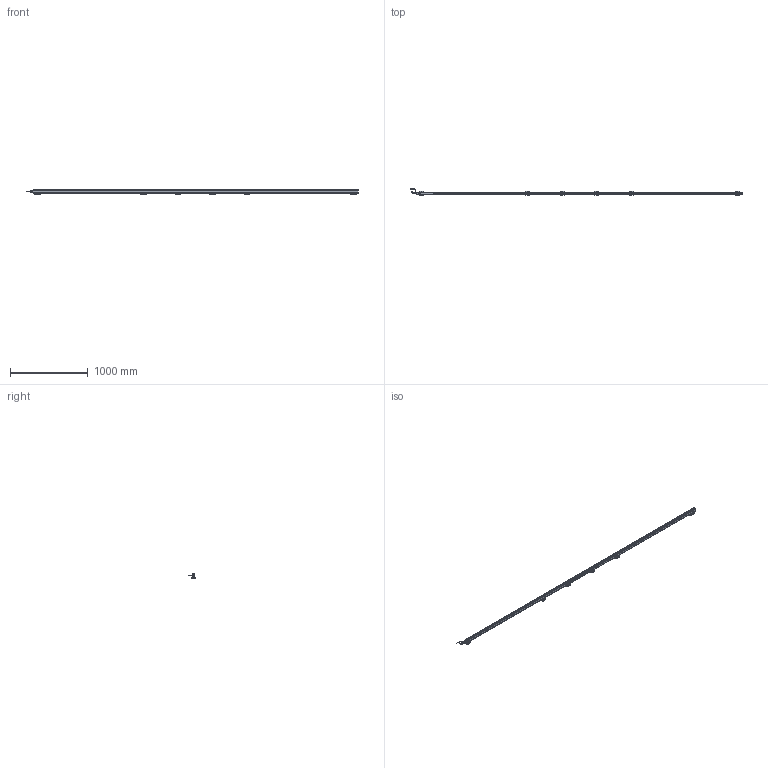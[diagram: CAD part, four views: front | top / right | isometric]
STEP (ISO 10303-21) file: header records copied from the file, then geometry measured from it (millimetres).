
FILE_DESCRIPTION(('Bauteilbeschreibung','HiCAD-Model','HiCAD-STEP-TRANSLATION','Bauteilbeschreibung'),'2;1');
FILE_NAME('PERFORMAXIQEASY_4110-4200_3D.STP','2014-03-05T13:34:36+00:00',('Konstrukteur'),('Konstrukteur Firma GmbH'),' HiCAD 2011, Step 1600.0 ','HiCAD 2011','confidential');
FILE_SCHEMA(('AUTOMOTIVE_DESIGN { 1 2 10303 214 0 1 1 1 }'));
Products named in the file (56): PERFORMAXIQEASY_4110_4200_3D; A_PERFORMAX IQ EASY 4110_4200; A_PERFORMAX IQ EASY SPEED; A_CAP DE; A_CAP CE_5; LED_2C_3MM; LED02C03MM; A519020315_CONNECTOR APPLIANCE; A_INSERT; A_CONTACTS; A_HOUSING; A_PROFILE; A_POTTING; PIN; PIN0; A532000100_BRACKET BARS_ MOUNT; A_SIDE PIECE; A0SIDE0PIECE; A_BRACKET SMALL; A_SLIDE PIECE; A5320001000BRACKET0BARS00MOUNT; A0SIDE0PIECE0; A0SIDE0PIECE1; A0BRACKET0SMALL; A0SLIDE0PIECE; A5320001000BRACKET0BARS00MOUNT0; A0SIDE0PIECE2; A0SIDE0PIECE3; A0BRACKET0SMALL0; A0SLIDE0PIECE0; A0SIDE0PIECE4; A0SIDE0PIECE5; A0BRACKET0SMALL1; A0SLIDE0PIECE1; A0SIDE0PIECE6; A0SIDE0PIECE7; A0BRACKET0SMALL2; A0SLIDE0PIECE2; A0SIDE0PIECE8; A0SIDE0PIECE9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
Assembly tree (55 placements, depth 5):
  PERFORMAXIQEASY_4110_4200_3D
    A_PERFORMAX IQ EASY 4110_4200
      A_PERFORMAX IQ EASY SPEED
        A_CAP DE
        A_CAP CE_5
        LED_2C_3MM
        LED02C03MM
        A519020315_CONNECTOR APPLIANCE
          A_INSERT
          A_CONTACTS
          A_HOUSING
        A_PROFILE
        A_POTTING
        PIN
        PIN0
      A532000100_BRACKET BARS_ MOUNT
        A_SIDE PIECE
        A0SIDE0PIECE
        A_BRACKET SMALL
        A_SLIDE PIECE
      A5320001000BRACKET0BARS00MOUNT
        A0SIDE0PIECE0
        A0SIDE0PIECE1
        A0BRACKET0SMALL
        A0SLIDE0PIECE
      A5320001000BRACKET0BARS00MOUNT0
        A0SIDE0PIECE2
        A0SIDE0PIECE3
        A0BRACKET0SMALL0
        A0SLIDE0PIECE0
      A5320001000BRACKET0BARS00MOUNT0
        A0SIDE0PIECE4
        A0SIDE0PIECE5
        A0BRACKET0SMALL1
        A0SLIDE0PIECE1
      A5320001000BRACKET0BARS00MOUNT0
        A0SIDE0PIECE6
        A0SIDE0PIECE7
        A0BRACKET0SMALL2
        A0SLIDE0PIECE2
      A5320001000BRACKET0BARS00MOUNT0
        A0SIDE0PIECE8
        A0SIDE0PIECE9
        A0BRACKET0SMALL3
        A0SLIDE0PIECE3
      A_CONNECTOR STRAIGHT
        EXTRUDED SOLID_0
        DRAAD GEBOGEN
        REVOLVED SOLID_1
        REVOLVED SOLID_3
      A_CONNECTOR ANGLED
        REVOLVED0SOLID01
        EXTRUDED0SOLID00
        C_EDGE SWEEP_0
        REVOLVED SOLID_2
        REVOLVED0SOLID03
Bounding box: 4277.89 x 84.16 x 63.13 mm (x, y, z)
Volume: 4319254.2 mm3; surface area: 1040316.5 mm2
Topology: 49 solids, 49 shells, 4983 faces, 12800 edges, 7585 vertices
Faces by surface type: cylinder 2137, plane 1879, sphere 332, torus 299, bspline 248, cone 88
Full cylindrical faces by diameter (mm): 0.8 x10, 1 x5, 2.387 x12, 3 x27, 3.1 x1, 4.2 x2, 5 x4, 5.5 x30, 8 x2, 8.2 x1, 8.4 x2, 8.945 x1, 9 x2, 10.2 x1, 10.5 x3, 11 x1, 12 x3, 12.8 x1, 13.8 x4, 14.5 x3
Entity records: 231105 total; most frequent: CARTESIAN_POINT 54548, DIRECTION 24777, ORIENTED_EDGE 24320, EDGE_CURVE 12160, COLOUR_RGB 11541, PRESENTATION_STYLE_ASSIGNMENT 11541, OVER_RIDING_STYLED_ITEM 11497, CURVE_STYLE 11492
